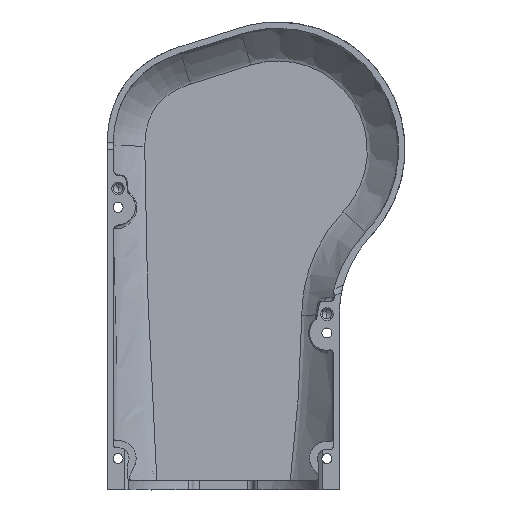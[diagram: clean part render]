
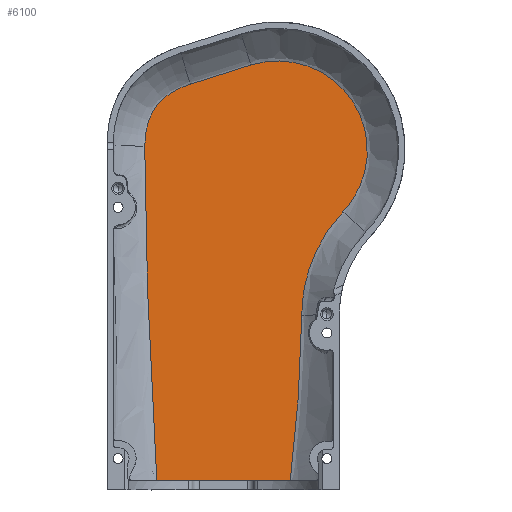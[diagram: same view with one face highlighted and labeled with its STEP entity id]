
A CAD part, left-side view. The second image highlights one B-rep face of the part: STEP entity #6100.
In plain terms, the highlighted planar face has unit normal (-0.999, 0, 0.04).
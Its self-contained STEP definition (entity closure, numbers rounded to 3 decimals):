
#386=CARTESIAN_POINT('',(249.238,-12.65,15.106));
#534=CARTESIAN_POINT('',(247.119,-8.974,-37.5));
#1349=CARTESIAN_POINT('',(252.446,3.572,94.783));
#1363=CARTESIAN_POINT('',(252.201,22.853,88.699));
#1442=CARTESIAN_POINT('',(251.405,37.35,68.927));
#1954=DIRECTION('',(0.,1.,0.));
#1955=VECTOR('',#1954,42.49);
#1956=CARTESIAN_POINT('',(247.119,-8.974,
-37.5));
#1957=LINE('',#1956,#1955);
#1958=CARTESIAN_POINT('',(247.119,33.515,-37.5));
#1959=CARTESIAN_POINT('',(248.548,35.463,-2.025));
#1960=CARTESIAN_POINT('',(249.976,37.35,33.452));
#1961=CARTESIAN_POINT('',(251.405,37.35,68.927));
#1963=CARTESIAN_POINT('',(251.405,37.35,68.927));
#1964=CARTESIAN_POINT('',(251.45,37.35,70.042));
#1965=CARTESIAN_POINT('',(251.517,37.265,71.706));
#1966=CARTESIAN_POINT('',(251.605,36.941,73.898));
#1967=CARTESIAN_POINT('',(251.671,36.58,75.532));
#1968=CARTESIAN_POINT('',(251.735,36.093,77.133));
#1969=CARTESIAN_POINT('',(251.797,35.473,78.673));
#1970=CARTESIAN_POINT('',(251.857,34.709,80.15));
#1971=CARTESIAN_POINT('',(251.932,33.478,82.03));
#1972=CARTESIAN_POINT('',(251.998,31.994,83.662));
#1973=CARTESIAN_POINT('',(252.055,30.265,85.078));
#1974=CARTESIAN_POINT('',(252.093,28.884,86.017));
#1975=CARTESIAN_POINT('',(252.126,27.452,86.835));
#1976=CARTESIAN_POINT('',(252.164,25.47,87.789));
#1977=CARTESIAN_POINT('',(252.188,23.914,88.364));
#1978=CARTESIAN_POINT('',(252.201,22.853,88.699));
#1980=DIRECTION('',(0.012,-0.954,0.301));
#1981=VECTOR('',#1980,20.219);
#1982=CARTESIAN_POINT('',(252.201,22.853,88.699));
#1983=LINE('',#1982,#1981);
#1984=CARTESIAN_POINT('',(252.446,3.572,94.783));
#1985=CARTESIAN_POINT('',(252.465,2.067,95.254));
#1986=CARTESIAN_POINT('',(252.493,-0.972,
95.943));
#1987=CARTESIAN_POINT('',(252.504,-5.684,96.218));
#1988=CARTESIAN_POINT('',(252.483,-10.371,95.714));
#1989=CARTESIAN_POINT('',(252.433,-14.876,94.464));
#1990=CARTESIAN_POINT('',(252.353,-19.161,92.476));
#1991=CARTESIAN_POINT('',(252.246,-23.052,89.815));
#1992=CARTESIAN_POINT('',(252.115,-26.45,86.557));
#1993=CARTESIAN_POINT('',(251.963,-29.262,82.796));
#1994=CARTESIAN_POINT('',(251.796,-31.42,78.63));
#1995=CARTESIAN_POINT('',(251.616,-32.868,74.166));
#1996=CARTESIAN_POINT('',(251.429,-33.569,69.525));
#1997=CARTESIAN_POINT('',(251.239,-33.497,64.815));
#1998=CARTESIAN_POINT('',(251.054,-32.663,60.216));
#1999=CARTESIAN_POINT('',(250.875,-31.075,55.77));
#2000=CARTESIAN_POINT('',(250.709,-28.767,51.637));
#2001=CARTESIAN_POINT('',(250.61,-26.815,49.195));
#2002=CARTESIAN_POINT('',(250.564,-25.731,48.044));
#2004=CARTESIAN_POINT('',(250.564,-25.731,48.044));
#2005=CARTESIAN_POINT('',(250.387,-21.579,43.642));
#2006=CARTESIAN_POINT('',(249.968,-14.96,33.254));
#2007=CARTESIAN_POINT('',(249.481,-12.65,21.157));
#2008=CARTESIAN_POINT('',(249.238,-12.65,15.106));
#2010=CARTESIAN_POINT('',(249.238,-12.65,15.106));
#2011=CARTESIAN_POINT('',(248.531,-12.65,
-2.428));
#2012=CARTESIAN_POINT('',(247.825,-10.865,
-19.965));
#2013=CARTESIAN_POINT('',(247.119,-8.974,
-37.5));
#2724=VERTEX_POINT('',#386);
#2725=VERTEX_POINT('',#2004);
#2742=VERTEX_POINT('',#534);
#2898=VERTEX_POINT('',#1349);
#2900=VERTEX_POINT('',#1363);
#2902=VERTEX_POINT('',#1442);
#2910=VERTEX_POINT('',#1958);
#6086=CARTESIAN_POINT('',(250.002,-1125.599,34.08));
#6087=DIRECTION('',(0.999,0.,-0.04));
#6088=DIRECTION('',(-0.04,0.,-0.999));
#6089=AXIS2_PLACEMENT_3D('',#6086,#6087,#6088);
#6090=PLANE('',#6089);
#6091=ORIENTED_EDGE('',*,*,#5950,.T.);
#6092=ORIENTED_EDGE('',*,*,#5029,.T.);
#6093=ORIENTED_EDGE('',*,*,#4965,.T.);
#6094=ORIENTED_EDGE('',*,*,#4747,.T.);
#6095=ORIENTED_EDGE('',*,*,#4720,.T.);
#6096=ORIENTED_EDGE('',*,*,#3492,.T.);
#6097=ORIENTED_EDGE('',*,*,#3554,.T.);
#6098=EDGE_LOOP('',(#6091,#6092,#6093,#6094,#6095,#6096,#6097));
#6099=FACE_OUTER_BOUND('',#6098,.F.);
#6100=ADVANCED_FACE('',(#6099),#6090,.F.);
#1962=B_SPLINE_CURVE_WITH_KNOTS('',3,(#1958,#1959,#1960,#1961),.UNSPECIFIED.,
.F.,.F.,(4,4),(0.,1.),.UNSPECIFIED.);
#1979=B_SPLINE_CURVE_WITH_KNOTS('',3,(#1963,#1964,#1965,#1966,#1967,#1968,#1969,
#1970,#1971,#1972,#1973,#1974,#1975,#1976,#1977,#1978),.UNSPECIFIED.,.F.,.F.,(4,
1,1,1,1,1,1,1,1,1,1,1,1,4),(0.,0.125,0.187,
0.25,0.312,0.375,0.437,
0.5,0.625,0.687,0.75,
0.812,0.875,1.),.UNSPECIFIED.);
#2003=B_SPLINE_CURVE_WITH_KNOTS('',3,(#1984,#1985,#1986,#1987,#1988,#1989,#1990,
#1991,#1992,#1993,#1994,#1995,#1996,#1997,#1998,#1999,#2000,#2001,#2002),
.UNSPECIFIED.,.F.,.F.,(4,1,1,1,1,1,1,1,1,1,1,1,1,1,1,1,4),(0.,0.063,0.125,
0.188,0.25,0.313,0.375,0.438,0.5,0.563,0.625,0.688,
0.75,0.813,0.875,0.938,1.),.UNSPECIFIED.);
#2009=B_SPLINE_CURVE_WITH_KNOTS('',3,(#2004,#2005,#2006,#2007,#2008),
.UNSPECIFIED.,.F.,.F.,(4,1,4),(0.,0.5,1.),.UNSPECIFIED.);
#2014=B_SPLINE_CURVE_WITH_KNOTS('',3,(#2010,#2011,#2012,#2013),.UNSPECIFIED.,
.F.,.F.,(4,4),(0.,1.),.UNSPECIFIED.);
#3492=EDGE_CURVE('',#2725,#2724,#2009,.T.);
#3554=EDGE_CURVE('',#2724,#2742,#2014,.T.);
#4720=EDGE_CURVE('',#2898,#2725,#2003,.T.);
#4747=EDGE_CURVE('',#2900,#2898,#1983,.T.);
#4965=EDGE_CURVE('',#2902,#2900,#1979,.T.);
#5029=EDGE_CURVE('',#2910,#2902,#1962,.T.);
#5950=EDGE_CURVE('',#2742,#2910,#1957,.T.);
